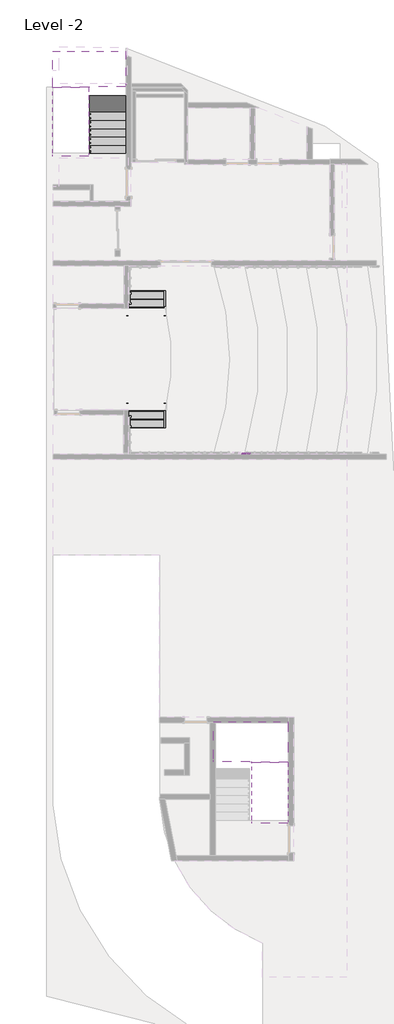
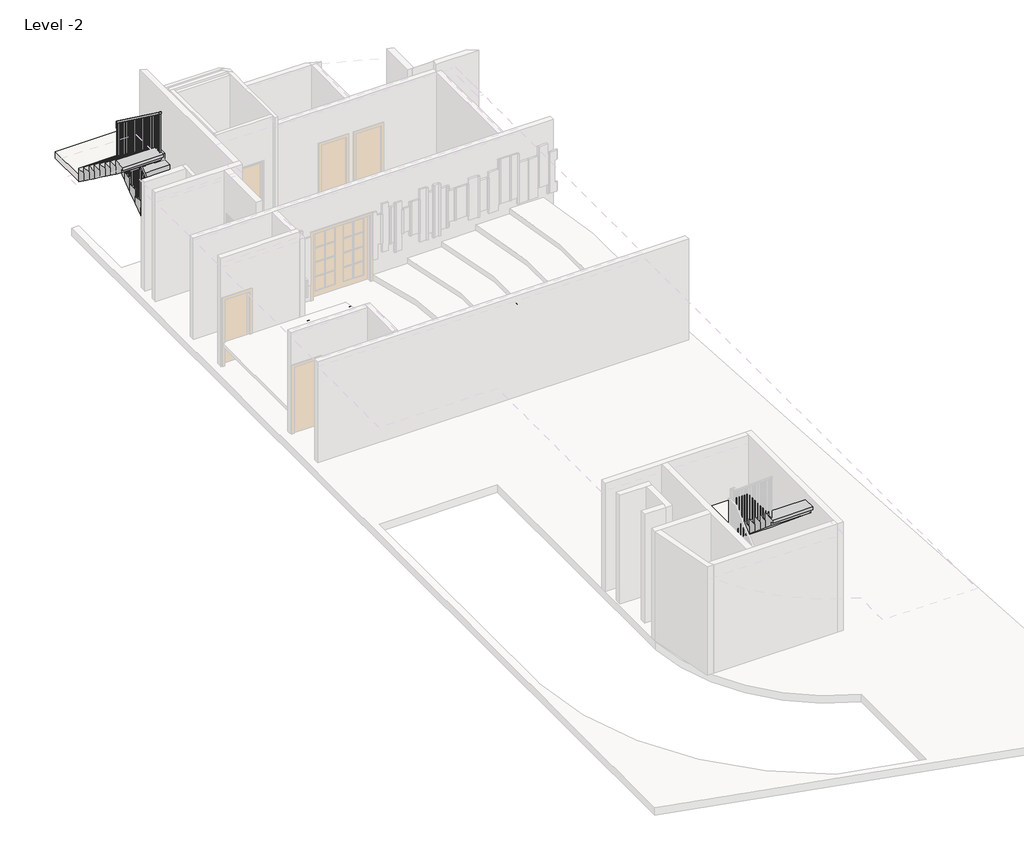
# One storey, part 6 of 6: 5 stair flights, 4 members, 2 slabs, 1 proxy, 1 railing.
"""IFC4 building model written with IfcOpenShell, lengths in millimetres."""

from ifc_helpers import new_model, si_unit, frame, origin, place, context, project, spatial, polyline, outline, extrude, faceted_brep, transform, mapped, element, save
from components import wood_steps_with_50mm_tread_10mm_nosing_13mm_riser_7044c9df, wood_steps_with_50mm_tread_10mm_nosing_13mm_riser_d08ba6e4

model = new_model("IFC4")

# Units and contexts
model_context = context("Model", 3, world=origin())
ifc_project = project(units=[si_unit("LENGTHUNIT", "METRE", prefix="MILLI")], contexts=[model_context])

# Site, building, storey
site = spatial("IfcSite", under=ifc_project)
building = spatial("IfcBuilding", under=site)
storey = spatial("IfcBuildingStorey", under=building, Name="Level -2", Elevation=-7000.0)

# Proxy
placement = place(None, origin())
element("IfcBuildingElementProxy", 1, Name="600mm Arial", ObjectType="600mm Arial", at=placement, inside=storey, context=model_context, shape_type="SweptSolid", body=[
    extrude(outline(polyline([(-4313.5086421, 6905.3466062), (-4029.4843997, 6791.9726716), (-4029.4843997, 6761.7396223), (-4313.5086421, 6648.3656877), (-4313.5086421, 6685.8796318), (-4224.7510663, 6718.4009623), (-4224.7510663, 6835.3806735), (-4313.5086421, 6867.8326621), (-4313.5086421, 6905.3466062)]), holes=[polyline([(-4189.248036, 6822.3444045), (-4189.248036, 6731.3678894), (-4119.420787, 6756.9550343), (-4064.98743, 6776.8561469), (-4113.3187037, 6794.5383202), (-4189.248036, 6822.3444045)])]), frame((0.0, 141.5114142, 0.0), z_axis=(0.0, 1.0, 0.0), x_axis=(0.0, 0.0, 1.0)), (0.0, 0.0, 1.0), 50.0),
    extrude(outline(polyline([(-4313.5086421, 6610.4356924), (-4029.4843997, 6610.4356924), (-4029.4843997, 6549.3455172), (-4229.6743381, 6491.2370418), (-4271.4874773, 6479.5182682), (-4226.2072453, 6466.8287085), (-4029.4843997, 6409.6910191), (-4029.4843997, 6348.6008439), (-4313.5086421, 6348.6008439), (-4313.5086421, 6384.1038742), (-4064.98743, 6384.1038742), (-4313.5086421, 6455.4566441), (-4313.5086421, 6503.5798922), (-4064.98743, 6574.9326621), (-4313.5086421, 6574.9326621), (-4313.5086421, 6610.4356924)])), frame((0.0, 141.5114142, 0.0), z_axis=(0.0, 1.0, 0.0), x_axis=(0.0, 0.0, 1.0)), (0.0, 0.0, 1.0), 50.0),
    extrude(outline(polyline([(-4313.5086421, 6286.4705409), (-4029.4843997, 6286.4705409), (-4029.4843997, 6181.2096034), (-4032.1887321, 6138.7723875), (-4037.2420198, 6119.8507285), (-4045.4676975, 6104.2748141), (-4057.2384776, 6091.7326059), (-4072.9270725, 6081.9120655), (-4091.4326803, 6075.5672857), (-4111.6544991, 6073.4523591), (-4145.1292801, 6079.1643945), (-4173.0220417, 6096.3005006), (-4184.0040582, 6110.0236873), (-4191.8483556, 6128.3451059), (-4196.5549341, 6151.2647562), (-4198.1237936, 6178.7826384), (-4198.1237936, 6250.9675106), (-4313.5086421, 6250.9675106), (-4313.5086421, 6286.4705409)]), holes=[polyline([(-4162.6207633, 6250.9675106), (-4162.6207633, 6176.7023827), (-4159.3616961, 6145.2211801), (-4149.5844944, 6124.4186233), (-4133.8958994, 6112.8211978), (-4112.9026525, 6108.9553894), (-4096.9540256, 6111.2350029), (-4083.5017055, 6118.0738434), (-4073.3777946, 6128.6224733), (-4067.4143949, 6142.0314547), (-4064.98743, 6177.534485), (-4064.98743, 6250.9675106), (-4162.6207633, 6250.9675106)])]), frame((0.0, 141.5114142, 0.0), z_axis=(0.0, 1.0, 0.0), x_axis=(0.0, 0.0, 1.0)), (0.0, 0.0, 1.0), 50.0),
    extrude(outline(polyline([(-4313.5086421, 6024.6356924), (-4029.4843997, 6024.6356924), (-4029.4843997, 5989.1326621), (-4144.8692482, 5989.1326621), (-4144.8692482, 5838.2447833), (-4029.4843997, 5838.2447833), (-4029.4843997, 5802.741753), (-4313.5086421, 5802.741753), (-4313.5086421, 5838.2447833), (-4180.3722785, 5838.2447833), (-4180.3722785, 5989.1326621), (-4313.5086421, 5989.1326621), (-4313.5086421, 6024.6356924)])), frame((0.0, 141.5114142, 0.0), z_axis=(0.0, 1.0, 0.0), x_axis=(0.0, 0.0, 1.0)), (0.0, 0.0, 1.0), 50.0),
    extrude(outline(polyline([(5700.6705409, 191.5114142), (5736.1735712, 191.5114142), (5736.1735712, 141.5114142), (5700.6705409, 141.5114142), (5700.6705409, 191.5114142)])), frame((0.0, 0.0, -4313.5086421), z_axis=(0.0, 0.0, 1.0), x_axis=(1.0, 0.0, 0.0)), (0.0, 0.0, 1.0), 284.0242424),
    extrude(outline(polyline([(-4313.5086421, 5558.6584197), (-4064.98743, 5558.6584197), (-4064.98743, 5651.8538742), (-4029.4843997, 5651.8538742), (-4029.4843997, 5429.9599348), (-4064.98743, 5429.9599348), (-4064.98743, 5523.1553894), (-4313.5086421, 5523.1553894), (-4313.5086421, 5558.6584197)])), frame((0.0, 141.5114142, 0.0), z_axis=(0.0, 1.0, 0.0), x_axis=(0.0, 0.0, 1.0)), (0.0, 0.0, 1.0), 50.0),
    extrude(outline(polyline([(-4313.5086421, 5390.0190257), (-4029.4843997, 5390.0190257), (-4029.4843997, 5354.5159954), (-4144.8692482, 5354.5159954), (-4144.8692482, 5203.6281166), (-4029.4843997, 5203.6281166), (-4029.4843997, 5168.1250863), (-4313.5086421, 5168.1250863), (-4313.5086421, 5203.6281166), (-4180.3722785, 5203.6281166), (-4180.3722785, 5354.5159954), (-4313.5086421, 5354.5159954), (-4313.5086421, 5390.0190257)])), frame((0.0, 141.5114142, 0.0), z_axis=(0.0, 1.0, 0.0), x_axis=(0.0, 0.0, 1.0)), (0.0, 0.0, 1.0), 50.0),
    extrude(outline(polyline([(-4313.5086421, 5105.9947833), (-4029.4843997, 5105.9947833), (-4029.4843997, 4901.8523591), (-4064.98743, 4901.8523591), (-4064.98743, 5070.491753), (-4149.3071269, 5070.491753), (-4149.3071269, 4910.7281166), (-4184.8101572, 4910.7281166), (-4184.8101572, 5070.491753), (-4278.0056118, 5070.491753), (-4278.0056118, 4897.4144803), (-4313.5086421, 4897.4144803), (-4313.5086421, 5105.9947833)])), frame((0.0, 141.5114142, 0.0), z_axis=(0.0, 1.0, 0.0), x_axis=(0.0, 0.0, 1.0)), (0.0, 0.0, 1.0), 50.0),
    extrude(outline(polyline([(-4313.5086421, 4877.2360002), (-4029.4843997, 4763.8620655), (-4029.4843997, 4733.6290163), (-4313.5086421, 4620.2550816), (-4313.5086421, 4657.7690257), (-4224.7510663, 4690.2903562), (-4224.7510663, 4807.2700674), (-4313.5086421, 4839.722056), (-4313.5086421, 4877.2360002)]), holes=[polyline([(-4189.248036, 4794.2337985), (-4189.248036, 4703.2572833), (-4119.420787, 4728.8444282), (-4064.98743, 4748.7455409), (-4113.3187037, 4766.4277142), (-4189.248036, 4794.2337985)])]), frame((0.0, 141.5114142, 0.0), z_axis=(0.0, 1.0, 0.0), x_axis=(0.0, 0.0, 1.0)), (0.0, 0.0, 1.0), 50.0),
    extrude(outline(polyline([(-4313.5086421, 4511.3190257), (-4064.98743, 4511.3190257), (-4064.98743, 4604.5144803), (-4029.4843997, 4604.5144803), (-4029.4843997, 4382.6205409), (-4064.98743, 4382.6205409), (-4064.98743, 4475.8159954), (-4313.5086421, 4475.8159954), (-4313.5086421, 4511.3190257)])), frame((0.0, 141.5114142, 0.0), z_axis=(0.0, 1.0, 0.0), x_axis=(0.0, 0.0, 1.0)), (0.0, 0.0, 1.0), 50.0),
    extrude(outline(polyline([(-4313.5086421, 4342.6796318), (-4029.4843997, 4342.6796318), (-4029.4843997, 4220.2912558), (-4031.3999684, 4187.3972129), (-4037.1466748, 4163.4656048), (-4047.7559787, 4145.9741216), (-4064.2593405, 4132.4004533), (-4084.7238558, 4123.6893826), (-4107.2166203, 4120.7856924), (-4135.1960592, 4125.5962837), (-4158.3909101, 4140.0280575), (-4175.3970003, 4164.5144004), (-4184.8101572, 4199.488699), (-4199.9960237, 4179.3102189), (-4236.5391819, 4150.5333486), (-4313.5086421, 4103.172861), (-4313.5086421, 4144.4312653), (-4254.6374063, 4181.3904746), (-4215.6672832, 4208.0870892), (-4197.2570204, 4226.8440612), (-4190.4961894, 4243.7288032), (-4189.248036, 4264.3233344), (-4189.248036, 4307.1766015), (-4313.5086421, 4307.1766015), (-4313.5086421, 4342.6796318)]), holes=[polyline([(-4153.7450057, 4307.1766015), (-4153.7450057, 4227.7108344), (-4148.7177212, 4187.1805196), (-4142.1822512, 4173.8495477), (-4132.6304106, 4164.1590234), (-4121.0763238, 4158.2562979), (-4108.5341156, 4156.2887227), (-4091.215987, 4160.0418507), (-4077.2609385, 4171.3012345), (-4068.0558071, 4190.6736156), (-4064.98743, 4218.765735), (-4064.98743, 4307.1766015), (-4153.7450057, 4307.1766015)])]), frame((0.0, 141.5114142, 0.0), z_axis=(0.0, 1.0, 0.0), x_axis=(0.0, 0.0, 1.0)), (0.0, 0.0, 1.0), 50.0),
    extrude(outline(polyline([(-4313.5086421, 4058.6553894), (-4029.4843997, 4058.6553894), (-4029.4843997, 3854.5129651), (-4064.98743, 3854.5129651), (-4064.98743, 4023.1523591), (-4149.3071269, 4023.1523591), (-4149.3071269, 3863.3887227), (-4184.8101572, 3863.3887227), (-4184.8101572, 4023.1523591), (-4278.0056118, 4023.1523591), (-4278.0056118, 3850.0750863), (-4313.5086421, 3850.0750863), (-4313.5086421, 4058.6553894)])), frame((0.0, 141.5114142, 0.0), z_axis=(0.0, 1.0, 0.0), x_axis=(0.0, 0.0, 1.0)), (0.0, 0.0, 1.0), 50.0),
])

# Members
element("IfcMember", 2, ObjectType="Stringer - 50mm Width", at=placement, inside=storey, context=model_context, shape_type="SweptSolid", body=[
    extrude(outline(polyline([(5678.5604898, -6769.2505896), (5678.5604898, -7000.0), (5293.0410558, -7000.0), (4838.5604898, -6715.9496462), (4838.5604898, -6244.2505896), (5678.5604898, -6769.2505896)])), frame((3716.701563, 0.0, 0.0), z_axis=(1.0, 0.0, 0.0), x_axis=(0.0, 1.0, 0.0)), (0.0, 0.0, 1.0), 50.0),
])
element("IfcMember", 3, ObjectType="Stringer - 50mm Width", at=placement, inside=storey, context=model_context, shape_type="SweptSolid", body=[
    extrude(outline(polyline([(5678.5604898, -6769.2505896), (5678.5604898, -7000.0), (5293.0410558, -7000.0), (4838.5604898, -6715.9496462), (4838.5604898, -6244.2505896), (5678.5604898, -6769.2505896)])), frame((2446.701563, 0.0, 0.0), z_axis=(1.0, 0.0, 0.0), x_axis=(0.0, 1.0, 0.0)), (0.0, 0.0, 1.0), 50.0),
])
element("IfcMember", 4, ObjectType="Stringer - 50mm Width", at=placement, inside=storey, context=model_context, shape_type="SweptSolid", body=[
    extrude(outline(polyline([(1035.1293333, -7000.0), (1035.1293333, -6769.2505896), (1875.1293333, -6244.2505896), (1875.1293333, -6715.9496462), (1420.6487673, -7000.0), (1035.1293333, -7000.0)])), frame((2442.3539947, 0.0, 0.0), z_axis=(1.0, 0.0, 0.0), x_axis=(0.0, 1.0, 0.0)), (0.0, 0.0, 1.0), 50.0),
])
element("IfcMember", 5, ObjectType="Stringer - 50mm Width", at=placement, inside=storey, context=model_context, shape_type="SweptSolid", body=[
    extrude(outline(polyline([(1035.1293333, -7000.0), (1035.1293333, -6769.2505896), (1875.1293333, -6244.2505896), (1875.1293333, -6715.9496462), (1420.6487673, -7000.0), (1035.1293333, -7000.0)])), frame((3712.3539947, 0.0, 0.0), z_axis=(1.0, 0.0, 0.0), x_axis=(0.0, 1.0, 0.0)), (0.0, 0.0, 1.0), 50.0),
])

# Railing
element("IfcRailing", 6, ObjectType="1100mm", at=placement, inside=storey, context=model_context, shape_type="SolidModel", body=[
    faceted_brep([(1179.9765888, 10328.8506586, -5694.1176471), (1179.9765888, 10328.8506586, -5756.1792584), (1229.9765888, 10328.8506586, -5756.1792584), (1229.9765888, 10328.8506586, -5694.1176471), (1179.9765888, 12288.8506586, -4252.9411765), (1179.9765888, 12305.25445, -4302.9411765), (1229.9765888, 12305.25445, -4302.9411765), (1229.9765888, 12288.8506586, -4252.9411765), (1179.9765888, 12569.2506586, -4252.9411765), (1179.9765888, 12569.2506586, -4302.9411765), (1229.9765888, 12619.2506586, -4302.9411765), (1229.9765888, 12619.2506586, -4252.9411765), (1159.5709975, 12569.2506586, -4252.9411765), (1159.5709975, 12619.2506586, -4252.9411765), (1109.5709975, 12619.2506586, -4302.9411765), (1109.5709975, 12569.2506586, -4302.9411765)], [[[0, 1, 2, 3]], [[1, 0, 4, 5]], [[2, 1, 5, 6]], [[3, 2, 6, 7]], [[0, 3, 7, 4]], [[5, 4, 8, 9]], [[6, 5, 9, 10]], [[7, 6, 10, 11]], [[4, 7, 11, 8]], [[12, 13, 14, 15]], [[9, 8, 12, 15]], [[10, 9, 15, 14]], [[11, 10, 14, 13]], [[8, 11, 13, 12]]]),
    faceted_brep([(1159.5709975, 12569.2506586, -4252.9411765), (1109.5709975, 12569.2506586, -4302.9411765), (1109.5709975, 12619.2506586, -4302.9411765), (1159.5709975, 12619.2506586, -4252.9411765), (1159.5709975, 12569.2506586, -4109.4145525), (1159.5709975, 12619.2506586, -4084.1176471), (1109.5709975, 12619.2506586, -4084.1176471), (1109.5709975, 12569.2506586, -4109.4145525)], [[[0, 1, 2, 3]], [[4, 5, 6, 7]], [[1, 0, 4, 7]], [[2, 1, 7, 6]], [[3, 2, 6, 5]], [[0, 3, 5, 4]]]),
    faceted_brep([(1159.5709975, 12619.2506586, -4084.1176471), (1159.5709975, 12569.2506586, -4109.4145525), (1109.5709975, 12569.2506586, -4109.4145525), (1109.5709975, 12619.2506586, -4084.1176471), (1159.5709975, 10328.8506586, -2400.0), (1109.5709975, 10328.8506586, -2400.0), (1109.5709975, 10328.8506586, -2462.0616113), (1159.5709975, 10328.8506586, -2462.0616113)], [[[0, 1, 2, 3]], [[4, 5, 6, 7]], [[1, 0, 4, 7]], [[2, 1, 7, 6]], [[3, 2, 6, 5]], [[0, 3, 5, 4]]]),
    extrude(outline(polyline([(10436.7506586, -3705.8823529), (10411.7506586, -3705.8823529), (10411.7506586, -2523.0174937), (10436.7506586, -2541.3998466), (10436.7506586, -3705.8823529)])), frame((1122.0709975, 0.0, 0.0), z_axis=(1.0, 0.0, 0.0), x_axis=(0.0, 1.0, 0.0)), (0.0, 0.0, 1.0), 25.0),
    extrude(outline(polyline([(10576.7506586, -3705.8823529), (10551.7506586, -3705.8823529), (10551.7506586, -2625.9586701), (10576.7506586, -2644.3410231), (10576.7506586, -3705.8823529)])), frame((1122.0709975, 0.0, 0.0), z_axis=(1.0, 0.0, 0.0), x_axis=(0.0, 1.0, 0.0)), (0.0, 0.0, 1.0), 25.0),
    extrude(outline(polyline([(10716.7506586, -3911.7647059), (10691.7506586, -3911.7647059), (10691.7506586, -2728.8998466), (10716.7506586, -2747.2821995), (10716.7506586, -3911.7647059)])), frame((1122.0709975, 0.0, 0.0), z_axis=(1.0, 0.0, 0.0), x_axis=(0.0, 1.0, 0.0)), (0.0, 0.0, 1.0), 25.0),
    extrude(outline(polyline([(10856.7506586, -3911.7647059), (10831.7506586, -3911.7647059), (10831.7506586, -2831.8410231), (10856.7506586, -2850.223376), (10856.7506586, -3911.7647059)])), frame((1122.0709975, 0.0, 0.0), z_axis=(1.0, 0.0, 0.0), x_axis=(0.0, 1.0, 0.0)), (0.0, 0.0, 1.0), 25.0),
    extrude(outline(polyline([(10996.7506586, -4117.6470588), (10971.7506586, -4117.6470588), (10971.7506586, -2934.7821995), (10996.7506586, -2953.1645525), (10996.7506586, -4117.6470588)])), frame((1122.0709975, 0.0, 0.0), z_axis=(1.0, 0.0, 0.0), x_axis=(0.0, 1.0, 0.0)), (0.0, 0.0, 1.0), 25.0),
    extrude(outline(polyline([(11136.7506586, -4117.6470588), (11111.7506586, -4117.6470588), (11111.7506586, -3037.723376), (11136.7506586, -3056.105729), (11136.7506586, -4117.6470588)])), frame((1122.0709975, 0.0, 0.0), z_axis=(1.0, 0.0, 0.0), x_axis=(0.0, 1.0, 0.0)), (0.0, 0.0, 1.0), 25.0),
    extrude(outline(polyline([(11276.7506586, -4323.5294118), (11251.7506586, -4323.5294118), (11251.7506586, -3140.6645525), (11276.7506586, -3159.0469054), (11276.7506586, -4323.5294118)])), frame((1122.0709975, 0.0, 0.0), z_axis=(1.0, 0.0, 0.0), x_axis=(0.0, 1.0, 0.0)), (0.0, 0.0, 1.0), 25.0),
    extrude(outline(polyline([(11416.7506586, -4323.5294118), (11391.7506586, -4323.5294118), (11391.7506586, -3243.605729), (11416.7506586, -3261.9880819), (11416.7506586, -4323.5294118)])), frame((1122.0709975, 0.0, 0.0), z_axis=(1.0, 0.0, 0.0), x_axis=(0.0, 1.0, 0.0)), (0.0, 0.0, 1.0), 25.0),
    extrude(outline(polyline([(11556.7506586, -4529.4117647), (11531.7506586, -4529.4117647), (11531.7506586, -3346.5469054), (11556.7506586, -3364.9292584), (11556.7506586, -4529.4117647)])), frame((1122.0709975, 0.0, 0.0), z_axis=(1.0, 0.0, 0.0), x_axis=(0.0, 1.0, 0.0)), (0.0, 0.0, 1.0), 25.0),
    extrude(outline(polyline([(11696.7506586, -4529.4117647), (11671.7506586, -4529.4117647), (11671.7506586, -3449.4880819), (11696.7506586, -3467.8704348), (11696.7506586, -4529.4117647)])), frame((1122.0709975, 0.0, 0.0), z_axis=(1.0, 0.0, 0.0), x_axis=(0.0, 1.0, 0.0)), (0.0, 0.0, 1.0), 25.0),
    extrude(outline(polyline([(11836.7506586, -4735.2941176), (11811.7506586, -4735.2941176), (11811.7506586, -3552.4292584), (11836.7506586, -3570.8116113), (11836.7506586, -4735.2941176)])), frame((1122.0709975, 0.0, 0.0), z_axis=(1.0, 0.0, 0.0), x_axis=(0.0, 1.0, 0.0)), (0.0, 0.0, 1.0), 25.0),
    extrude(outline(polyline([(11976.7506586, -4735.2941176), (11951.7506586, -4735.2941176), (11951.7506586, -3655.3704348), (11976.7506586, -3673.7527878), (11976.7506586, -4735.2941176)])), frame((1122.0709975, 0.0, 0.0), z_axis=(1.0, 0.0, 0.0), x_axis=(0.0, 1.0, 0.0)), (0.0, 0.0, 1.0), 25.0),
    extrude(outline(polyline([(12116.7506586, -4941.1764706), (12091.7506586, -4941.1764706), (12091.7506586, -3758.3116113), (12116.7506586, -3776.6939643), (12116.7506586, -4941.1764706)])), frame((1122.0709975, 0.0, 0.0), z_axis=(1.0, 0.0, 0.0), x_axis=(0.0, 1.0, 0.0)), (0.0, 0.0, 1.0), 25.0),
    extrude(outline(polyline([(12256.7506586, -4941.1764706), (12231.7506586, -4941.1764706), (12231.7506586, -3861.2527878), (12256.7506586, -3879.6351407), (12256.7506586, -4941.1764706)])), frame((1122.0709975, 0.0, 0.0), z_axis=(1.0, 0.0, 0.0), x_axis=(0.0, 1.0, 0.0)), (0.0, 0.0, 1.0), 25.0),
    extrude(outline(polyline([(12396.7506586, -5147.0588235), (12371.7506586, -5147.0588235), (12371.7506586, -3964.1939643), (12396.7506586, -3982.5763172), (12396.7506586, -5147.0588235)])), frame((1122.0709975, 0.0, 0.0), z_axis=(1.0, 0.0, 0.0), x_axis=(0.0, 1.0, 0.0)), (0.0, 0.0, 1.0), 25.0),
    extrude(outline(polyline([(12536.7506586, -5147.0588235), (12511.7506586, -5147.0588235), (12511.7506586, -4067.1351407), (12536.7506586, -4085.5174937), (12536.7506586, -5147.0588235)])), frame((1122.0709975, 0.0, 0.0), z_axis=(1.0, 0.0, 0.0), x_axis=(0.0, 1.0, 0.0)), (0.0, 0.0, 1.0), 25.0),
    extrude(outline(polyline([(1147.4765888, 12581.7506586), (1122.4765888, 12581.7506586), (1122.4765888, 12606.7506586), (1147.4765888, 12606.7506586), (1147.4765888, 12581.7506586)])), frame((0.0, 0.0, -5352.9411765), z_axis=(0.0, 0.0, 1.0), x_axis=(1.0, 0.0, 0.0)), (0.0, 0.0, 1.0), 1050.0),
    extrude(outline(polyline([(1192.4765888, 12486.3506586), (1192.4765888, 12511.3506586), (1217.4765888, 12511.3506586), (1217.4765888, 12486.3506586), (1192.4765888, 12486.3506586)])), frame((0.0, 0.0, -5352.9411765), z_axis=(0.0, 0.0, 1.0), x_axis=(1.0, 0.0, 0.0)), (0.0, 0.0, 1.0), 1050.0),
    extrude(outline(polyline([(1192.4765888, 12346.3506586), (1192.4765888, 12371.3506586), (1217.4765888, 12371.3506586), (1217.4765888, 12346.3506586), (1192.4765888, 12346.3506586)])), frame((0.0, 0.0, -5352.9411765), z_axis=(0.0, 0.0, 1.0), x_axis=(1.0, 0.0, 0.0)), (0.0, 0.0, 1.0), 1050.0),
    extrude(outline(polyline([(12206.3506586, -4375.6645525), (12231.3506586, -4357.2821995), (12231.3506586, -5558.8235294), (12206.3506586, -5558.8235294), (12206.3506586, -4375.6645525)])), frame((1192.4765888, 0.0, 0.0), z_axis=(1.0, 0.0, 0.0), x_axis=(0.0, 1.0, 0.0)), (0.0, 0.0, 1.0), 25.0),
    extrude(outline(polyline([(12066.3506586, -4478.605729), (12091.3506586, -4460.223376), (12091.3506586, -5558.8235294), (12066.3506586, -5558.8235294), (12066.3506586, -4478.605729)])), frame((1192.4765888, 0.0, 0.0), z_axis=(1.0, 0.0, 0.0), x_axis=(0.0, 1.0, 0.0)), (0.0, 0.0, 1.0), 25.0),
    extrude(outline(polyline([(11926.3506586, -4581.5469054), (11951.3506586, -4563.1645525), (11951.3506586, -5764.7058824), (11926.3506586, -5764.7058824), (11926.3506586, -4581.5469054)])), frame((1192.4765888, 0.0, 0.0), z_axis=(1.0, 0.0, 0.0), x_axis=(0.0, 1.0, 0.0)), (0.0, 0.0, 1.0), 25.0),
    extrude(outline(polyline([(11786.3506586, -4684.4880819), (11811.3506586, -4666.105729), (11811.3506586, -5764.7058824), (11786.3506586, -5764.7058824), (11786.3506586, -4684.4880819)])), frame((1192.4765888, 0.0, 0.0), z_axis=(1.0, 0.0, 0.0), x_axis=(0.0, 1.0, 0.0)), (0.0, 0.0, 1.0), 25.0),
    extrude(outline(polyline([(11646.3506586, -4787.4292584), (11671.3506586, -4769.0469054), (11671.3506586, -5970.5882353), (11646.3506586, -5970.5882353), (11646.3506586, -4787.4292584)])), frame((1192.4765888, 0.0, 0.0), z_axis=(1.0, 0.0, 0.0), x_axis=(0.0, 1.0, 0.0)), (0.0, 0.0, 1.0), 25.0),
    extrude(outline(polyline([(11506.3506586, -4890.3704348), (11531.3506586, -4871.9880819), (11531.3506586, -5970.5882353), (11506.3506586, -5970.5882353), (11506.3506586, -4890.3704348)])), frame((1192.4765888, 0.0, 0.0), z_axis=(1.0, 0.0, 0.0), x_axis=(0.0, 1.0, 0.0)), (0.0, 0.0, 1.0), 25.0),
    extrude(outline(polyline([(11366.3506586, -4993.3116113), (11391.3506586, -4974.9292584), (11391.3506586, -6176.4705882), (11366.3506586, -6176.4705882), (11366.3506586, -4993.3116113)])), frame((1192.4765888, 0.0, 0.0), z_axis=(1.0, 0.0, 0.0), x_axis=(0.0, 1.0, 0.0)), (0.0, 0.0, 1.0), 25.0),
    extrude(outline(polyline([(11226.3506586, -5096.2527878), (11251.3506586, -5077.8704348), (11251.3506586, -6176.4705882), (11226.3506586, -6176.4705882), (11226.3506586, -5096.2527878)])), frame((1192.4765888, 0.0, 0.0), z_axis=(1.0, 0.0, 0.0), x_axis=(0.0, 1.0, 0.0)), (0.0, 0.0, 1.0), 25.0),
    extrude(outline(polyline([(11086.3506586, -5199.1939643), (11111.3506586, -5180.8116113), (11111.3506586, -6382.3529412), (11086.3506586, -6382.3529412), (11086.3506586, -5199.1939643)])), frame((1192.4765888, 0.0, 0.0), z_axis=(1.0, 0.0, 0.0), x_axis=(0.0, 1.0, 0.0)), (0.0, 0.0, 1.0), 25.0),
    extrude(outline(polyline([(10946.3506586, -5302.1351407), (10971.3506586, -5283.7527878), (10971.3506586, -6382.3529412), (10946.3506586, -6382.3529412), (10946.3506586, -5302.1351407)])), frame((1192.4765888, 0.0, 0.0), z_axis=(1.0, 0.0, 0.0), x_axis=(0.0, 1.0, 0.0)), (0.0, 0.0, 1.0), 25.0),
    extrude(outline(polyline([(10806.3506586, -5405.0763172), (10831.3506586, -5386.6939643), (10831.3506586, -6588.2352941), (10806.3506586, -6588.2352941), (10806.3506586, -5405.0763172)])), frame((1192.4765888, 0.0, 0.0), z_axis=(1.0, 0.0, 0.0), x_axis=(0.0, 1.0, 0.0)), (0.0, 0.0, 1.0), 25.0),
    extrude(outline(polyline([(10666.3506586, -5508.0174937), (10691.3506586, -5489.6351407), (10691.3506586, -6588.2352941), (10666.3506586, -6588.2352941), (10666.3506586, -5508.0174937)])), frame((1192.4765888, 0.0, 0.0), z_axis=(1.0, 0.0, 0.0), x_axis=(0.0, 1.0, 0.0)), (0.0, 0.0, 1.0), 25.0),
    extrude(outline(polyline([(10526.3506586, -5610.9586701), (10551.3506586, -5592.5763172), (10551.3506586, -6794.1176471), (10526.3506586, -6794.1176471), (10526.3506586, -5610.9586701)])), frame((1192.4765888, 0.0, 0.0), z_axis=(1.0, 0.0, 0.0), x_axis=(0.0, 1.0, 0.0)), (0.0, 0.0, 1.0), 25.0),
    extrude(outline(polyline([(10386.3506586, -5713.8998466), (10411.3506586, -5695.5174937), (10411.3506586, -6794.1176471), (10386.3506586, -6794.1176471), (10386.3506586, -5713.8998466)])), frame((1192.4765888, 0.0, 0.0), z_axis=(1.0, 0.0, 0.0), x_axis=(0.0, 1.0, 0.0)), (0.0, 0.0, 1.0), 25.0),
    extrude(outline(polyline([(1147.0709975, 12606.7506586), (1147.0709975, 12581.7506586), (1122.0709975, 12581.7506586), (1122.0709975, 12606.7506586), (1147.0709975, 12606.7506586)])), frame((0.0, 0.0, -5352.9411765), z_axis=(0.0, 0.0, 1.0), x_axis=(1.0, 0.0, 0.0)), (0.0, 0.0, 1.0), 1050.0),
    extrude(outline(polyline([(1192.4765888, 12581.7506586), (1192.4765888, 12606.7506586), (1217.4765888, 12606.7506586), (1217.4765888, 12581.7506586), (1192.4765888, 12581.7506586)])), frame((0.0, 0.0, -5352.9411765), z_axis=(0.0, 0.0, 1.0), x_axis=(1.0, 0.0, 0.0)), (0.0, 0.0, 1.0), 1050.0),
    extrude(outline(polyline([(12276.3506586, -4324.1939643), (12301.3506586, -4305.8116113), (12301.3506586, -5352.9411765), (12276.3506586, -5352.9411765), (12276.3506586, -4324.1939643)])), frame((1192.4765888, 0.0, 0.0), z_axis=(1.0, 0.0, 0.0), x_axis=(0.0, 1.0, 0.0)), (0.0, 0.0, 1.0), 25.0),
    extrude(outline(polyline([(10353.8506586, -3705.8823529), (10328.8506586, -3705.8823529), (10328.8506586, -2462.0616113), (10353.8506586, -2480.4439643), (10353.8506586, -3705.8823529)])), frame((1122.0709975, 0.0, 0.0), z_axis=(1.0, 0.0, 0.0), x_axis=(0.0, 1.0, 0.0)), (0.0, 0.0, 1.0), 25.0),
    extrude(outline(polyline([(10328.8506586, -5756.1792584), (10353.8506586, -5737.7969054), (10353.8506586, -6794.1176471), (10328.8506586, -6794.1176471), (10328.8506586, -5756.1792584)])), frame((1192.4765888, 0.0, 0.0), z_axis=(1.0, 0.0, 0.0), x_axis=(0.0, 1.0, 0.0)), (0.0, 0.0, 1.0), 25.0),
])

# Slabs
element("IfcSlab", 7, ObjectType="220mm Thickness", at=placement, inside=storey, context=model_context, shape_type="Brep", body=[
    faceted_brep([(2399.5765888, 13788.8506586, -5352.9411765), (-60.0290025, 13788.8506586, -5352.9411765), (-60.0290025, 12568.8506586, -5352.9411765), (1159.9709975, 12568.8506586, -5352.9411765), (1177.9890888, 12568.8506586, -5352.9411765), (1177.9890888, 12678.8506586, -5352.9411765), (2399.5765888, 12678.8506586, -5352.9411765), (2399.5765888, 13788.8506586, -5572.9411765), (2399.5765888, 12678.8506586, -5462.9411765), (2399.5765888, 12578.8506586, -5462.9411765), (2399.5765888, 12578.8506586, -5572.9411765), (-60.0290025, 13788.8506586, -5572.9411765), (-60.0290025, 12568.8506586, -5572.9411765), (1159.9709975, 12568.8506586, -5572.9411765), (1177.9890888, 12568.8506586, -5572.9411765), (1177.9890888, 12578.8506586, -5572.9411765), (1177.9890888, 12678.8506586, -5462.9411765), (1177.9890888, 12578.8506586, -5462.9411765)], [[[0, 1, 2, 3, 4, 5, 6]], [[7, 0, 6, 8, 9, 10]], [[1, 0, 7, 11]], [[2, 1, 11, 12]], [[3, 2, 12, 13]], [[3, 13, 14, 4]], [[11, 7, 10, 15, 14, 13, 12]], [[16, 17, 9, 8]], [[5, 16, 8, 6]], [[16, 5, 4, 14, 15, 17]], [[9, 17, 15, 10]]]),
])
element("IfcSlab", 8, ObjectType="220mm Thickness", at=placement, inside=storey, context=model_context, shape_type="Brep", body=[
    faceted_brep([(6689.9709976, -10275.6929429, -5366.6666667), (7909.9709976, -10275.6929429, -5366.6666667), (7909.9709976, -8910.0372616, -5366.6666667), (5389.9709976, -8910.0372616, -5366.6666667), (5389.9709976, -10165.6929429, -5366.6666667), (6611.5584976, -10165.6929429, -5366.6666667), (6611.5584976, -10275.6929429, -5366.6666667), (6689.9709976, -10275.6929429, -5586.6666667), (6611.5584976, -10275.6929429, -5586.6666667), (7909.9709976, -10275.6929429, -5586.6666667), (7909.9709976, -8910.0372616, -5586.6666667), (5389.9709976, -8910.0372616, -5586.6666667), (5389.9709976, -10265.6929429, -5586.6666667), (5389.9709976, -10265.6929429, -5476.6666667), (5389.9709976, -10165.6929429, -5476.6666667), (6611.5584976, -10265.6929429, -5586.6666667), (6611.5584976, -10265.6929429, -5476.6666667), (6611.5584976, -10165.6929429, -5476.6666667)], [[[0, 1, 2, 3, 4, 5, 6]], [[7, 0, 6, 8]], [[1, 0, 7, 9]], [[2, 1, 9, 10]], [[3, 2, 10, 11]], [[3, 11, 12, 13, 14, 4]], [[9, 7, 8, 15, 12, 11, 10]], [[16, 17, 14, 13]], [[5, 17, 16, 15, 8, 6]], [[17, 5, 4, 14]], [[16, 13, 12, 15]]]),
])

# Stair flights
element("IfcStairFlight", 9, ObjectType="190mm Depth", at=placement, inside=storey, context=model_context, shape_type="Brep", body=[
    faceted_brep([(1179.5765888, 10608.8506586, -6794.1176471), (1179.5765888, 10328.8506586, -6794.1176471), (2399.5765888, 10328.8506586, -6794.1176471), (2399.5765888, 10608.8506586, -6794.1176471), (1179.5765888, 10608.8506586, -7000.0), (1179.5765888, 10328.8506586, -7000.0), (2399.5765888, 10328.8506586, -7000.0), (2399.5765888, 10608.8506586, -7000.0), (1179.5765888, 10888.8506586, -6588.2352941), (1179.5765888, 10608.8506586, -6588.2352941), (2399.5765888, 10608.8506586, -6588.2352941), (2399.5765888, 10888.8506586, -6588.2352941), (1179.5765888, 10888.8506586, -6824.0694171), (1179.5765888, 10649.5850659, -7000.0), (2399.5765888, 10649.5850659, -7000.0), (2399.5765888, 10888.8506586, -6824.0694171), (1179.5765888, 11168.8506586, -6382.3529412), (1179.5765888, 10888.8506586, -6382.3529412), (2399.5765888, 10888.8506586, -6382.3529412), (2399.5765888, 11168.8506586, -6382.3529412), (1179.5765888, 11168.8506586, -6618.1870642), (2399.5765888, 11168.8506586, -6618.1870642), (1179.5765888, 11448.8506586, -6176.4705882), (1179.5765888, 11168.8506586, -6176.4705882), (2399.5765888, 11168.8506586, -6176.4705882), (2399.5765888, 11448.8506586, -6176.4705882), (1179.5765888, 11448.8506586, -6412.3047112), (2399.5765888, 11448.8506586, -6412.3047112), (1179.5765888, 11728.8506586, -5970.5882353), (1179.5765888, 11448.8506586, -5970.5882353), (2399.5765888, 11448.8506586, -5970.5882353), (2399.5765888, 11728.8506586, -5970.5882353), (1179.5765888, 11728.8506586, -6206.4223583), (2399.5765888, 11728.8506586, -6206.4223583), (1179.5765888, 12008.8506586, -5764.7058824), (1179.5765888, 11728.8506586, -5764.7058824), (2399.5765888, 11728.8506586, -5764.7058824), (2399.5765888, 12008.8506586, -5764.7058824), (1179.5765888, 12008.8506586, -6000.5400053), (2399.5765888, 12008.8506586, -6000.5400053), (1179.5765888, 12288.8506586, -5558.8235294), (1179.5765888, 12008.8506586, -5558.8235294), (2399.5765888, 12008.8506586, -5558.8235294), (2399.5765888, 12288.8506586, -5558.8235294), (1179.5765888, 12288.8506586, -5794.6576524), (2399.5765888, 12288.8506586, -5794.6576524), (1179.5765888, 12288.8506586, -5352.9411765), (2399.5765888, 12288.8506586, -5352.9411765), (2399.5765888, 12668.8506586, -5352.9411765), (1179.5765888, 12668.8506586, -5352.9411765), (1179.5765888, 12668.8506586, -5452.9411765), (1179.5765888, 12568.8506586, -5452.9411765), (1179.5765888, 12568.8506586, -5588.7752995), (2399.5765888, 12568.8506586, -5588.7752995), (2399.5765888, 12568.8506586, -5452.9411765), (2399.5765888, 12668.8506586, -5452.9411765)], [[[0, 1, 2, 3]], [[1, 0, 4, 5]], [[2, 1, 5, 6]], [[3, 2, 6, 7]], [[8, 9, 10, 11]], [[4, 0, 9, 8, 12, 13]], [[0, 3, 10, 9]], [[3, 7, 14, 15, 11, 10]], [[16, 17, 18, 19]], [[17, 16, 20, 12, 8]], [[8, 11, 18, 17]], [[19, 18, 11, 15, 21]], [[22, 23, 24, 25]], [[23, 22, 26, 20, 16]], [[16, 19, 24, 23]], [[25, 24, 19, 21, 27]], [[28, 29, 30, 31]], [[29, 28, 32, 26, 22]], [[22, 25, 30, 29]], [[31, 30, 25, 27, 33]], [[34, 35, 36, 37]], [[35, 34, 38, 32, 28]], [[28, 31, 36, 35]], [[37, 36, 31, 33, 39]], [[40, 41, 42, 43]], [[41, 40, 44, 38, 34]], [[34, 37, 42, 41]], [[43, 42, 37, 39, 45]], [[46, 47, 48, 49]], [[46, 49, 50, 51, 52, 44, 40]], [[40, 43, 47, 46]], [[48, 47, 43, 45, 53, 54, 55]], [[52, 51, 54, 53]], [[5, 4, 13, 14, 7, 6]], [[14, 13, 12, 20, 26, 32, 38, 44, 52, 53, 45, 39, 33, 27, 21, 15]], [[55, 54, 51, 50]], [[55, 50, 49, 48]]]),
])
element("IfcStairFlight", 10, ObjectType="190mm Depth", at=placement, inside=storey, context=model_context, shape_type="Brep", body=[
    faceted_brep([(1159.9709975, 12568.8506586, -5147.0588235), (-60.0290025, 12568.8506586, -5147.0588235), (-60.0290025, 12547.3162514, -5147.0588235), (-60.0290025, 12288.8506586, -5147.0588235), (1159.9709975, 12288.8506586, -5147.0588235), (1159.9709975, 12547.3162514, -5147.0588235), (1159.9709975, 12288.8506586, -5382.8929465), (1159.9709975, 12547.3162514, -5572.9411765), (1159.9709975, 12568.8506586, -5572.9411765), (-60.0290025, 12568.8506586, -5572.9411765), (-60.0290025, 12547.3162514, -5572.9411765), (-60.0290025, 12288.8506586, -5382.8929465), (1159.9709975, 12008.8506586, -4941.1764706), (1159.9709975, 12288.8506586, -4941.1764706), (-60.0290025, 12288.8506586, -4941.1764706), (-60.0290025, 12008.8506586, -4941.1764706), (1159.9709975, 12008.8506586, -5177.0105936), (-60.0290025, 12008.8506586, -5177.0105936), (1159.9709975, 11728.8506586, -4735.2941176), (1159.9709975, 12008.8506586, -4735.2941176), (-60.0290025, 12008.8506586, -4735.2941176), (-60.0290025, 11728.8506586, -4735.2941176), (1159.9709975, 11728.8506586, -4971.1282406), (-60.0290025, 11728.8506586, -4971.1282406), (1159.9709975, 11448.8506586, -4529.4117647), (1159.9709975, 11728.8506586, -4529.4117647), (-60.0290025, 11728.8506586, -4529.4117647), (-60.0290025, 11448.8506586, -4529.4117647), (1159.9709975, 11448.8506586, -4765.2458877), (-60.0290025, 11448.8506586, -4765.2458877), (1159.9709975, 11168.8506586, -4323.5294118), (1159.9709975, 11448.8506586, -4323.5294118), (-60.0290025, 11448.8506586, -4323.5294118), (-60.0290025, 11168.8506586, -4323.5294118), (1159.9709975, 11168.8506586, -4559.3635347), (-60.0290025, 11168.8506586, -4559.3635347), (1159.9709975, 10888.8506586, -4117.6470588), (1159.9709975, 11168.8506586, -4117.6470588), (-60.0290025, 11168.8506586, -4117.6470588), (-60.0290025, 10888.8506586, -4117.6470588), (1159.9709975, 10888.8506586, -4353.4811818), (-60.0290025, 10888.8506586, -4353.4811818), (1159.9709975, 10608.8506586, -3911.7647059), (1159.9709975, 10888.8506586, -3911.7647059), (-60.0290025, 10888.8506586, -3911.7647059), (-60.0290025, 10608.8506586, -3911.7647059), (1159.9709975, 10608.8506586, -4147.5988289), (-60.0290025, 10608.8506586, -4147.5988289), (1159.9709975, 10608.8506586, -3705.8823529), (-60.0290025, 10608.8506586, -3705.8823529), (-60.0290025, 10228.8506586, -3705.8823529), (1159.9709975, 10228.8506586, -3705.8823529), (1159.9709975, 10228.8506586, -3805.8823529), (1159.9709975, 10328.8506586, -3805.8823529), (1159.9709975, 10328.8506586, -3941.7164759), (-60.0290025, 10328.8506586, -3941.7164759), (-60.0290025, 10328.8506586, -3805.8823529), (-60.0290025, 10228.8506586, -3805.8823529)], [[[0, 1, 2, 3, 4, 5]], [[4, 6, 7, 8, 0, 5]], [[1, 0, 8, 9]], [[1, 9, 10, 11, 3, 2]], [[12, 13, 14, 15]], [[13, 12, 16, 6, 4]], [[14, 13, 4, 3]], [[15, 14, 3, 11, 17]], [[18, 19, 20, 21]], [[19, 18, 22, 16, 12]], [[20, 19, 12, 15]], [[21, 20, 15, 17, 23]], [[24, 25, 26, 27]], [[25, 24, 28, 22, 18]], [[26, 25, 18, 21]], [[27, 26, 21, 23, 29]], [[30, 31, 32, 33]], [[31, 30, 34, 28, 24]], [[32, 31, 24, 27]], [[33, 32, 27, 29, 35]], [[36, 37, 38, 39]], [[37, 36, 40, 34, 30]], [[38, 37, 30, 33]], [[39, 38, 33, 35, 41]], [[42, 43, 44, 45]], [[43, 42, 46, 40, 36]], [[44, 43, 36, 39]], [[45, 44, 39, 41, 47]], [[48, 49, 50, 51]], [[48, 51, 52, 53, 54, 46, 42]], [[49, 48, 42, 45]], [[50, 49, 45, 47, 55, 56, 57]], [[55, 54, 53, 56]], [[10, 7, 6, 16, 22, 28, 34, 40, 46, 54, 55, 47, 41, 35, 29, 23, 17, 11]], [[7, 10, 9, 8]], [[57, 56, 53, 52]], [[57, 52, 51, 50]]]),
])
element("IfcStairFlight", 11, ObjectType="190mm Depth", at=placement, inside=storey, context=model_context, shape_type="Brep", body=[
    faceted_brep([(7909.9709976, -10275.6929429, -5133.3333333), (6689.9709976, -10275.6929429, -5133.3333333), (6689.9709976, -10308.4824306, -5133.3333333), (6689.9709976, -10555.6929429, -5133.3333333), (7909.9709976, -10555.6929429, -5133.3333333), (7909.9709976, -10308.4824306, -5133.3333333), (7909.9709976, -10555.6929429, -5380.6579064), (7909.9709976, -10308.4824306, -5586.6666667), (7909.9709976, -10275.6929429, -5586.6666667), (6689.9709976, -10275.6929429, -5586.6666667), (6689.9709976, -10308.4824306, -5586.6666667), (6689.9709976, -10555.6929429, -5380.6579064), (7909.9709976, -10835.6929429, -4900.0), (7909.9709976, -10555.6929429, -4900.0), (6689.9709976, -10555.6929429, -4900.0), (6689.9709976, -10835.6929429, -4900.0), (7909.9709976, -10835.6929429, -5147.3245731), (6689.9709976, -10835.6929429, -5147.3245731), (7909.9709976, -11115.6929429, -4666.6666667), (7909.9709976, -10835.6929429, -4666.6666667), (6689.9709976, -10835.6929429, -4666.6666667), (6689.9709976, -11115.6929429, -4666.6666667), (7909.9709976, -11115.6929429, -4913.9912397), (6689.9709976, -11115.6929429, -4913.9912397), (7909.9709976, -11395.6929429, -4433.3333333), (7909.9709976, -11115.6929429, -4433.3333333), (6689.9709976, -11115.6929429, -4433.3333333), (6689.9709976, -11395.6929429, -4433.3333333), (7909.9709976, -11395.6929429, -4680.6579064), (6689.9709976, -11395.6929429, -4680.6579064), (7909.9709976, -11675.6929429, -4200.0), (7909.9709976, -11395.6929429, -4200.0), (6689.9709976, -11395.6929429, -4200.0), (6689.9709976, -11675.6929429, -4200.0), (7909.9709976, -11675.6929429, -4447.3245731), (6689.9709976, -11675.6929429, -4447.3245731), (7909.9709976, -11955.6929429, -3966.6666667), (7909.9709976, -11675.6929429, -3966.6666667), (6689.9709976, -11675.6929429, -3966.6666667), (6689.9709976, -11955.6929429, -3966.6666667), (7909.9709976, -11955.6929429, -4213.9912397), (6689.9709976, -11955.6929429, -4213.9912397), (7909.9709976, -11955.6929429, -3733.3333333), (6689.9709976, -11955.6929429, -3733.3333333), (6689.9709976, -12335.6929429, -3733.3333333), (7909.9709976, -12335.6929429, -3733.3333333), (7909.9709976, -12335.6929429, -3833.3333333), (7909.9709976, -12235.6929429, -3833.3333333), (7909.9709976, -12235.6929429, -3980.6579064), (6689.9709976, -12235.6929429, -3980.6579064), (6689.9709976, -12235.6929429, -3833.3333333), (6689.9709976, -12335.6929429, -3833.3333333)], [[[0, 1, 2, 3, 4, 5]], [[4, 6, 7, 8, 0, 5]], [[1, 0, 8, 9]], [[1, 9, 10, 11, 3, 2]], [[12, 13, 14, 15]], [[13, 12, 16, 6, 4]], [[14, 13, 4, 3]], [[15, 14, 3, 11, 17]], [[18, 19, 20, 21]], [[19, 18, 22, 16, 12]], [[20, 19, 12, 15]], [[21, 20, 15, 17, 23]], [[24, 25, 26, 27]], [[25, 24, 28, 22, 18]], [[26, 25, 18, 21]], [[27, 26, 21, 23, 29]], [[30, 31, 32, 33]], [[31, 30, 34, 28, 24]], [[32, 31, 24, 27]], [[33, 32, 27, 29, 35]], [[36, 37, 38, 39]], [[37, 36, 40, 34, 30]], [[38, 37, 30, 33]], [[39, 38, 33, 35, 41]], [[42, 43, 44, 45]], [[42, 45, 46, 47, 48, 40, 36]], [[43, 42, 36, 39]], [[44, 43, 39, 41, 49, 50, 51]], [[49, 48, 47, 50]], [[10, 7, 6, 16, 22, 28, 34, 40, 48, 49, 41, 35, 29, 23, 17, 11]], [[7, 10, 9, 8]], [[51, 50, 47, 46]], [[51, 46, 45, 44]]]),
])
wood_steps_with_50mm_tread_10mm_nosing_13mm_riser_shape = wood_steps_with_50mm_tread_10mm_nosing_13mm_riser_7044c9df(model_context)
element("IfcStairFlight", 12, ObjectType="Wood Steps with 50mm Tread 10mm Nosing 13mm Riser", at=placement, inside=storey, context=model_context, shape_type="MappedRepresentation", body=[
    mapped(wood_steps_with_50mm_tread_10mm_nosing_13mm_riser_shape, transform((0.0, 0.0, 0.0), x_axis=(1.0, 0.0, 0.0), y_axis=(0.0, 1.0, 0.0), z_axis=(0.0, 0.0, 1.0))),
])
wood_steps_with_50mm_tread_10mm_nosing_13mm_riser_2_shape = wood_steps_with_50mm_tread_10mm_nosing_13mm_riser_d08ba6e4(model_context)
element("IfcStairFlight", 13, ObjectType="Wood Steps with 50mm Tread 10mm Nosing 13mm Riser", at=placement, inside=storey, context=model_context, shape_type="MappedRepresentation", body=[
    mapped(wood_steps_with_50mm_tread_10mm_nosing_13mm_riser_2_shape, transform((0.0, 0.0, 0.0), x_axis=(1.0, 0.0, 0.0), y_axis=(0.0, 1.0, 0.0), z_axis=(0.0, 0.0, 1.0))),
])

save(model, "model.ifc")
